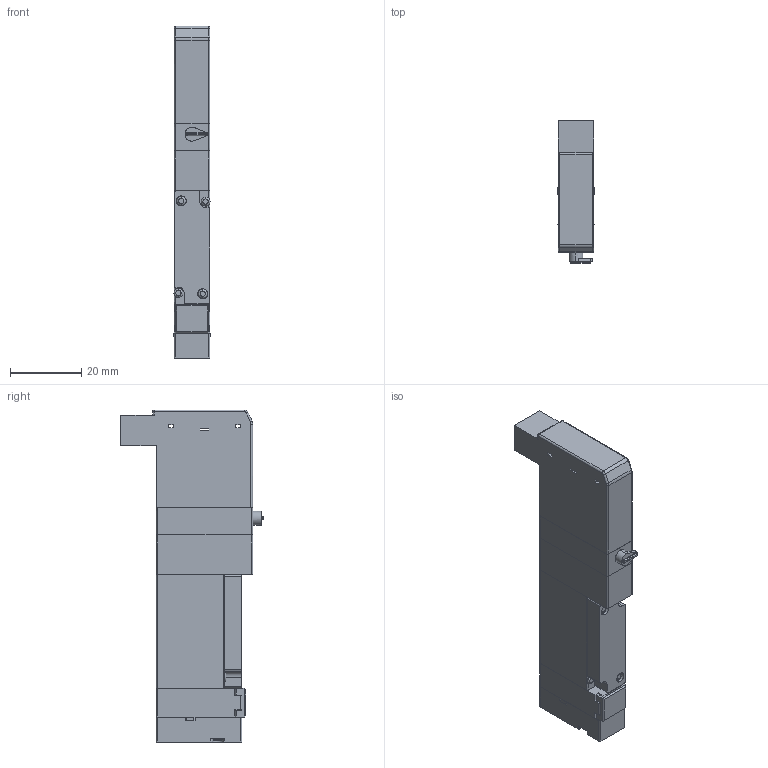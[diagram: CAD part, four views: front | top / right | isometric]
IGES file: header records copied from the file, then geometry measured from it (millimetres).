
Start section: ------------------------------------------------------------------------
Global section: file name: D:\ICADMX\tmp\trans3d_spg\CVICAD02.18204.F10T1-R-A1_8562.igs; native system: spGate; preprocessor: ver12.6.6; author: Unknown; organization: Unknown; date: 200901.142423; units: millimetre
Bounding box: 10.2 x 40 x 93 mm (x, y, z)
Volume: 24254.1 mm3; surface area: 11160.3 mm2
Topology: 7 solids, 7 shells, 274 faces, 702 edges, 450 vertices
Faces by surface type: bspline 274
